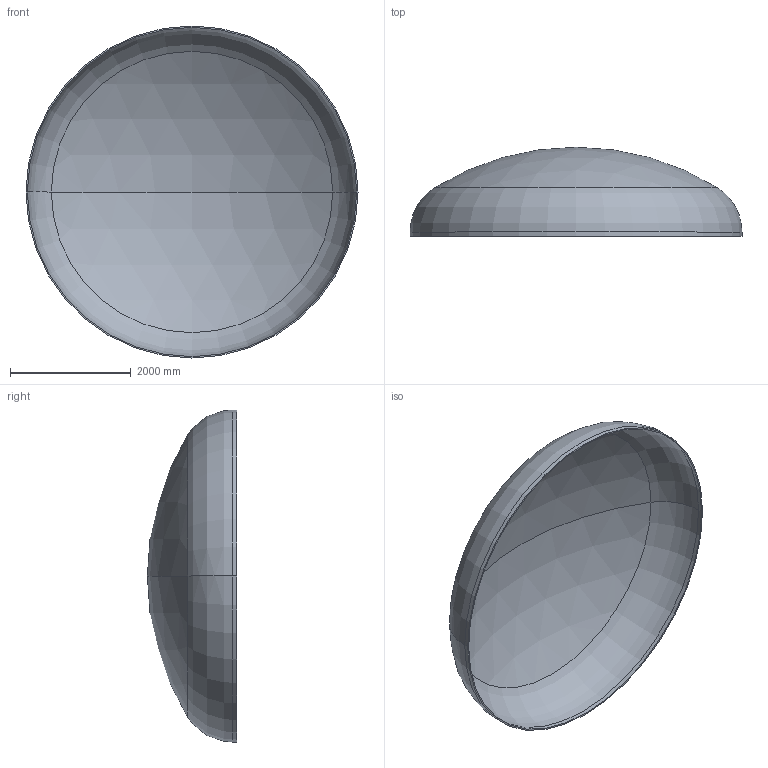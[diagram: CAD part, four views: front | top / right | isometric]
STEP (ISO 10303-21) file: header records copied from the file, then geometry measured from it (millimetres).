
FILE_DESCRIPTION (( 'STEP AP203' ), '1' );
FILE_NAME ('DIN 28013 Korbbogenform_-_Boden DIN 28013 - 5500 x 70 - I - s=22.step', '2016-07-04T10:33:44', ( '' ), ( '' ), 'SwSTEP 2.0', 'SolidWorks 2013', '' );
FILE_SCHEMA (( 'CONFIG_CONTROL_DESIGN' ));
Length unit declared in the file: millimetre
Products named in the file (1): DIN 28013 Korbbogenform_-_Boden DIN 28013 - 5500 x 70 - I - s=22
Bounding box: 5500 x 1476.65 x 5500 mm (x, y, z)
Volume: 746298684.1 mm3; surface area: 68224933.5 mm2
Topology: 1 solids, 1 shells, 13 faces, 24 edges, 14 vertices
Faces by surface type: torus 4, cylinder 4, sphere 4, plane 1
Entity records: 407 total; most frequent: DIRECTION 72, CARTESIAN_POINT 52, ORIENTED_EDGE 48, AXIS2_PLACEMENT_3D 34, EDGE_CURVE 24, CIRCLE 20, EDGE_LOOP 14, VERTEX_POINT 14
